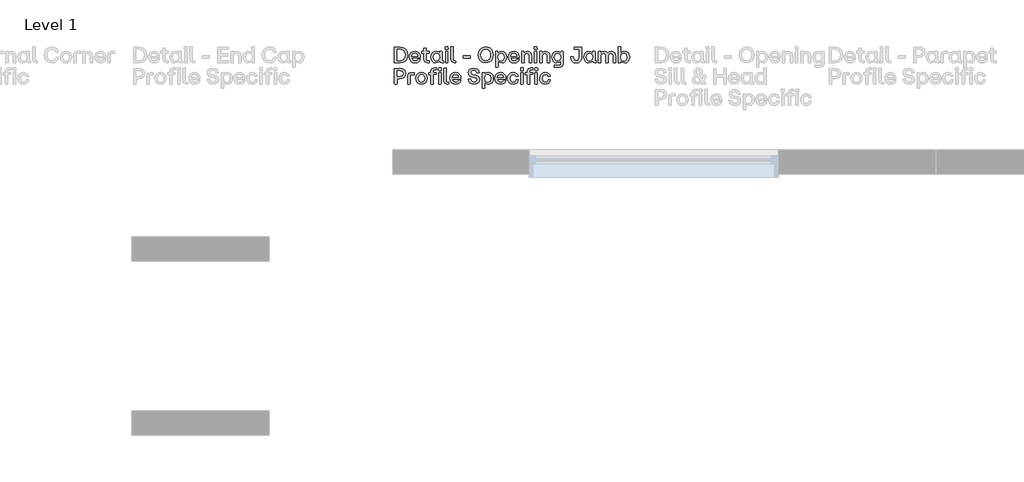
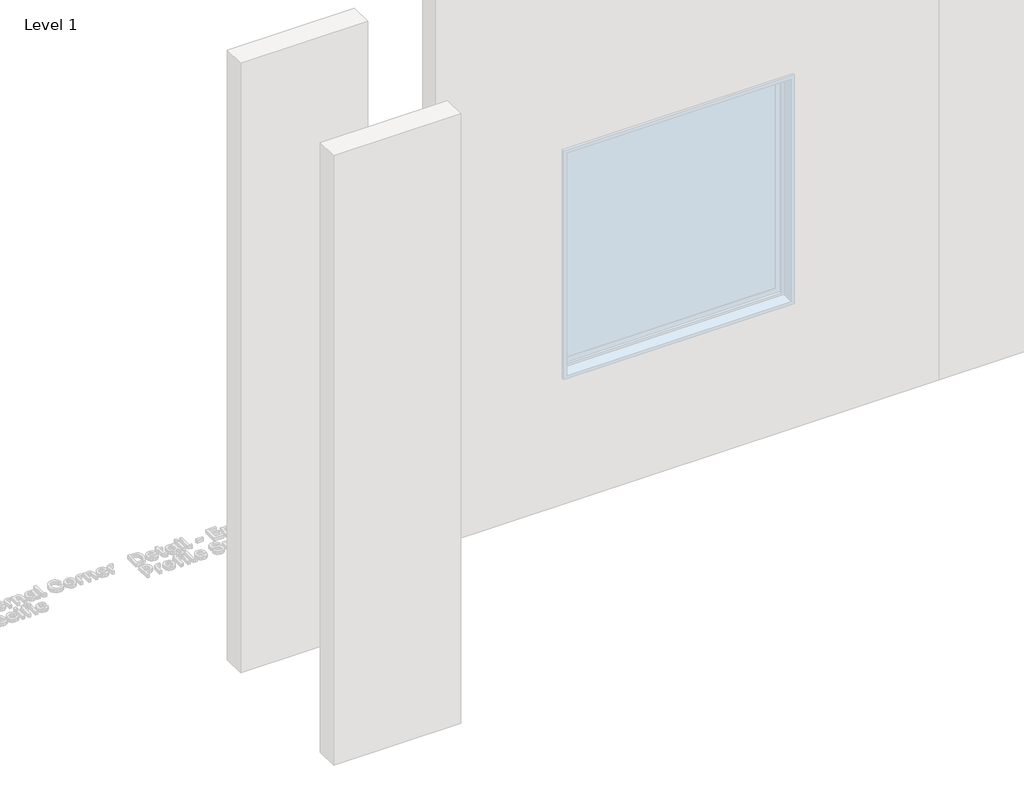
# One storey, part 43 of 64: 1 proxy.
"""IFC4 building model written with IfcOpenShell, lengths in millimetres."""

import ifcopenshell
import ifcopenshell.guid

model = None  # the IFC model being written
_history = None  # IfcOwnerHistory: only IFC2X3 demands one
_inside = {}  # id of a spatial element -> (the spatial element, [elements in it])
_under = {}  # id of a project, library or spatial element -> (it, [spatial elements below it])
_declared = {}  # id of a project -> (the project, [libraries it declares])
_typed = {}  # id of a type object -> (the type object, [elements of that type])
_made_of = {}  # id of a material, layer set ... -> (it, [elements and type objects made of it])


def new_model(schema):
    """Start an empty IFC model of exactly this schema.

    Asked for "IFC4X3", IfcOpenShell would pick the latest addendum, in which some entities
    have other attributes; the version numbers below select the first issue.
    IFC2X3 requires an IfcOwnerHistory on every rooted entity: one is made here for all.
    """
    global model, _history
    if schema == "IFC4X3":
        model = ifcopenshell.file(schema_version=(4, 3, 0, 0))
    else:
        model = ifcopenshell.file(schema=schema)
    _inside.clear()
    _under.clear()
    _declared.clear()
    _typed.clear()
    _made_of.clear()
    _history = None
    if model.schema == "IFC2X3":
        org = make("IfcOrganization", Name="unknown")
        user = make(
            "IfcPersonAndOrganization",
            ThePerson=make("IfcPerson", FamilyName="unknown"),
            TheOrganization=org,
        )
        app = make(
            "IfcApplication",
            ApplicationDeveloper=org,
            Version="unknown",
            ApplicationFullName="unknown",
            ApplicationIdentifier="unknown",
        )
        _history = make(
            "IfcOwnerHistory",
            OwningUser=user,
            OwningApplication=app,
            ChangeAction="ADDED",
            CreationDate=0,
        )
    return model


def make(cls, **values):
    """One entity of the class cls with the attributes given. An attribute that is None is left unset."""
    return model.create_entity(
        cls, **{name: value for name, value in values.items() if value is not None}
    )


def rooted(cls, **values):
    """An entity with a GlobalId (a new one), such as an element, a storey or a relation."""
    return make(cls, GlobalId=ifcopenshell.guid.new(), OwnerHistory=_history, **values)


def si_unit(unit_type, name, prefix=None):
    """IfcSIUnit, for example si_unit("LENGTHUNIT", "METRE", prefix="MILLI")."""
    return make("IfcSIUnit", UnitType=unit_type, Prefix=prefix, Name=name)


def assignment(units):
    """IfcUnitAssignment: the units of a project."""
    return None if units is None else make("IfcUnitAssignment", Units=units)


def point(xyz):
    """IfcCartesianPoint."""
    return None if xyz is None else make("IfcCartesianPoint", Coordinates=xyz)


def direction(xyz):
    """IfcDirection."""
    return None if xyz is None else make("IfcDirection", DirectionRatios=xyz)


def frame(location, z_axis=None, x_axis=None):
    """IfcAxis2Placement3D, a coordinate frame: its origin and axes. An axis left out is left unset."""
    return make(
        "IfcAxis2Placement3D",
        Location=point(location),
        Axis=direction(z_axis),
        RefDirection=direction(x_axis),
    )


def origin():
    """The frame at (0, 0, 0) with its axes left unset."""
    return frame((0.0, 0.0, 0.0))


def origin_with_axes():
    """The frame at (0, 0, 0) with the z axis (0, 0, 1) and the x axis (1, 0, 0) written out."""
    return frame((0.0, 0.0, 0.0), z_axis=(0.0, 0.0, 1.0), x_axis=(1.0, 0.0, 0.0))


def place(relative_to, where):
    """IfcLocalPlacement: puts the frame where relative to a parent placement (None: the world)."""
    return make(
        "IfcLocalPlacement", PlacementRelTo=relative_to, RelativePlacement=where
    )


def context(
    kind, dimensions, precision=None, world=None, true_north=None, identifier=None
):
    """IfcGeometricRepresentationContext, for example the 3D "Model" context."""
    return make(
        "IfcGeometricRepresentationContext",
        ContextIdentifier=identifier,
        ContextType=kind,
        CoordinateSpaceDimension=dimensions,
        Precision=precision,
        WorldCoordinateSystem=world,
        TrueNorth=true_north,
    )


def project(units=None, contexts=None):
    """IfcProject with its units and contexts."""
    return rooted(
        "IfcProject",
        Name="project",
        RepresentationContexts=contexts,
        UnitsInContext=assignment(units),
    )


def spatial(cls, under=None, at=None, **own):
    """A site, building, storey or space (cls), placed at a placement, below another one or the project."""
    s = rooted(cls, ObjectPlacement=at, **own)
    if under is not None:
        _under.setdefault(under.id(), (under, []))[1].append(s)
    return s


def polyline(points):
    """IfcPolyline through the points."""
    return make("IfcPolyline", Points=[point(p) for p in points])


def outline(outer, holes=None, kind="AREA"):
    """IfcArbitraryClosedProfileDef: a profile drawn as a closed curve; with holes, ...WithVoids."""
    if holes is None:
        return make("IfcArbitraryClosedProfileDef", ProfileType=kind, OuterCurve=outer)
    return make(
        "IfcArbitraryProfileDefWithVoids",
        ProfileType=kind,
        OuterCurve=outer,
        InnerCurves=holes,
    )


def extrude(swept, where, along, depth):
    """IfcExtrudedAreaSolid: the profile swept, set in the frame where, extruded along a direction by depth."""
    return make(
        "IfcExtrudedAreaSolid",
        SweptArea=swept,
        Position=where,
        ExtrudedDirection=direction(along),
        Depth=depth,
    )


def shape(context_of_items, identifier, shape_type, items):
    """IfcShapeRepresentation: the items that make up one representation, for example the "Body"."""
    return make(
        "IfcShapeRepresentation",
        ContextOfItems=context_of_items,
        RepresentationIdentifier=identifier,
        RepresentationType=shape_type,
        Items=items,
    )


def made_of(thing, what):
    """Note that an element or type object is made of a material, layer set ...; save() writes the relation."""
    if what is not None:
        _made_of.setdefault(what.id(), (what, []))[1].append(thing)
    return thing


def element(
    cls,
    number,
    at=None,
    inside=None,
    cuts=None,
    type_object=None,
    material=None,
    context=None,
    identifier="Body",
    shape_type=None,
    held_by="IfcProductDefinitionShape",
    body=None,
    shapes=None,
    **own,
):
    """One element of the class cls, such as IfcWall. Its Tag is "e" and its number.

    at: its placement. inside: the storey or other place that contains it. cuts: it is an
    opening in that element (IfcRelVoidsElement). A single representation is given by context,
    identifier, shape_type and body (its items); several are given by shapes. held_by: the class
    of the entity that holds the representations. save() writes the other relations.
    """
    e = rooted(cls, Tag="e%d" % number, ObjectPlacement=at, **own)
    if body is not None:
        shapes = [shape(context, identifier, shape_type, body)]
    if shapes is not None:
        e.Representation = make(held_by, Representations=shapes)
    if inside is not None:
        _inside.setdefault(inside.id(), (inside, []))[1].append(e)
    if cuts is not None:
        rooted(
            "IfcRelVoidsElement", RelatingBuildingElement=cuts, RelatedOpeningElement=e
        )
    if type_object is not None:
        _typed.setdefault(type_object.id(), (type_object, []))[1].append(e)
    return made_of(e, material)


def aggregate(whole, parts):
    """IfcRelAggregates: a whole, such as a stair, and the parts it consists of."""
    return rooted("IfcRelAggregates", RelatingObject=whole, RelatedObjects=parts)


def save(model, path):
    """Write the relations noted so far, then the file.

    IfcRelAggregates (storeys below a building ...), IfcRelContainedInSpatialStructure (elements
    in a storey), IfcRelDefinesByType, IfcRelAssociatesMaterial and IfcRelDeclares: one each for
    every whole, place, type object, material and project.
    """
    for whole, parts in _under.values():
        aggregate(whole, parts)
    for where, things in _inside.values():
        rooted(
            "IfcRelContainedInSpatialStructure",
            RelatedElements=things,
            RelatingStructure=where,
        )
    for kind, things in _typed.values():
        rooted("IfcRelDefinesByType", RelatedObjects=things, RelatingType=kind)
    for what, things in _made_of.values():
        rooted("IfcRelAssociatesMaterial", RelatedObjects=things, RelatingMaterial=what)
    for by, libraries in _declared.values():
        rooted("IfcRelDeclares", RelatingContext=by, RelatedDefinitions=libraries)
    model.write(path)


model = new_model("IFC4")

# Units and contexts
model_context = context("Model", 3, world=origin())
ifc_project = project(units=[si_unit("LENGTHUNIT", "METRE", prefix="MILLI")], contexts=[model_context])

# Site, building, storey
site = spatial("IfcSite", under=ifc_project)
building = spatial("IfcBuilding", under=site)
storey = spatial("IfcBuildingStorey", under=building, Name="Level 1", Elevation=0.0)

# Proxy
placement = place(None, origin())
element("IfcBuildingElementProxy", 1, Name="90mm", ObjectType="90mm", at=placement, inside=storey, context=model_context, shape_type="SweptSolid", body=[
    extrude(outline(polyline([(13610.2926176, -1500.0), (13608.9872124, -1498.7448027), (13608.9872124, -1411.3077612), (13642.5511873, -1410.002356), (13660.5475781, -1413.0054155), (13674.1193986, -1422.0145938), (13682.63905, -1436.3583606), (13685.4789338, -1455.3651852), (13682.648464, -1474.2025582), (13674.1570545, -1488.2890095), (13660.594648, -1497.0722524), (13642.5511873, -1500.0), (13610.2926176, -1500.0)]), holes=[polyline([(13623.7985402, -1487.3727155), (13641.6725492, -1487.3727155), (13653.8950326, -1485.311054), (13662.9481429, -1479.1260695), (13668.5494607, -1469.0625254), (13670.4165666, -1455.3651852), (13668.5431847, -1441.5109454), (13662.923039, -1431.1775339), (13653.8636527, -1424.7477859), (13641.6725492, -1422.6045366), (13623.7985402, -1422.6045366), (13623.7985402, -1487.3727155)])]), origin_with_axes(), (0.0, 0.0, 1.0), 20.0),
    extrude(outline(polyline([(13727.628458, -1500.7531184), (13714.0409476, -1498.4843493), (13703.5035666, -1491.6780421), (13696.7443293, -1481.0622112), (13694.4912502, -1467.3648711), (13696.7349153, -1453.5012173), (13703.4659107, -1442.7881086), (13713.9938777, -1435.9347315), (13727.628458, -1433.6502725), (13740.1584647, -1435.9033516), (13749.7324819, -1442.6625889), (13755.8044987, -1453.3129377), (13757.8285043, -1467.2393514), (13757.8285043, -1470.6785919), (13756.573307, -1472.009101), (13709.1268503, -1472.009101), (13714.6497183, -1484.6865934), (13727.628458, -1489.2053035), (13738.0465953, -1486.9082925), (13743.4439436, -1480.4691305), (13744.8246606, -1479.4147648), (13756.1967478, -1479.4147648), (13754.1633282, -1488.7314665), (13747.8120301, -1495.1925945), (13738.8248176, -1499.3629874), (13727.628458, -1500.7531184)]), holes=[polyline([(13709.2523701, -1461.5909637), (13743.8205028, -1461.5909637), (13739.0633051, -1449.6289337), (13727.628458, -1445.2733992), (13714.8631018, -1449.4155502), (13709.2523701, -1461.5909637)])]), origin_with_axes(), (0.0, 0.0, 1.0), 20.0),
    extrude(outline(polyline([(13796.6140998, -1500.0), (13782.731618, -1495.2302504), (13777.9618684, -1481.3477686), (13777.9618684, -1445.7754781), (13766.7906127, -1445.7754781), (13765.4852076, -1435.7339), (13766.7906127, -1434.4787027), (13777.9618684, -1434.4787027), (13777.9618684, -1416.45407), (13779.2170657, -1415.1486648), (13790.9657121, -1415.1486648), (13792.2209094, -1416.45407), (13792.2209094, -1434.4787027), (13808.0363949, -1434.4787027), (13809.3418001, -1435.7339), (13809.3418001, -1444.444969), (13792.2209094, -1445.7754781), (13792.2209094, -1488.7032246), (13808.0363949, -1488.7032246), (13809.3418001, -1489.9584219), (13809.3418001, -1498.7448027), (13808.0363949, -1500.0), (13796.6140998, -1500.0)])), origin_with_axes(), (0.0, 0.0, 1.0), 20.0),
    extrude(outline(polyline([(13847.2738615, -1500.7531184), (13835.3243835, -1498.4843493), (13826.0861316, -1491.6780421), (13820.1741525, -1481.0622112), (13818.2034928, -1467.3648711), (13820.1741525, -1453.5325972), (13826.0861316, -1442.8132125), (13835.3243835, -1435.9410075), (13847.2738615, -1433.6502725), (13859.1856835, -1436.5372262), (13868.160344, -1444.444969), (13868.7377347, -1435.7339), (13869.992932, -1434.4787027), (13881.6662665, -1434.4787027), (13882.9716717, -1435.7339), (13882.9716717, -1488.7032246), (13890.0760882, -1488.7032246), (13891.3312855, -1489.9584219), (13891.3312855, -1498.7448027), (13890.0760882, -1500.0), (13880.536589, -1500.0), (13872.1581473, -1497.6465051), (13869.3653333, -1490.5860205), (13859.7254183, -1497.8661646), (13847.2738615, -1500.7531184)]), holes=[polyline([(13832.7135732, -1467.3648711), (13837.6716024, -1483.3686362), (13843.5365116, -1487.7461367), (13851.2151809, -1489.2053035), (13858.7714684, -1487.7524127), (13864.470064, -1483.3937402), (13869.2398136, -1467.3648711), (13864.4324081, -1451.1728263), (13858.7243985, -1446.748256), (13851.2151809, -1445.2733992), (13843.5365116, -1446.748256), (13837.6716024, -1451.1728263), (13832.7135732, -1467.3648711)])]), origin_with_axes(), (0.0, 0.0, 1.0), 20.0),
    extrude(outline(polyline([(13903.6824266, -1500.0), (13902.3770214, -1498.7448027), (13902.3770214, -1435.7339), (13903.6824266, -1434.4787027), (13915.3557612, -1434.4787027), (13916.6109584, -1435.7339), (13916.6109584, -1498.7448027), (13915.3557612, -1500.0), (13903.6824266, -1500.0)])), origin_with_axes(), (0.0, 0.0, 1.0), 20.0),
    extrude(outline(polyline([(13901.3728636, -1421.8514182), (13901.3728636, -1407.9940404), (13902.6280609, -1406.6635313), (13916.4854387, -1406.6635313), (13917.8159478, -1421.8514182), (13916.4854387, -1423.1066155), (13902.6280609, -1423.1066155), (13901.3728636, -1421.8514182)])), origin_with_axes(), (0.0, 0.0, 1.0), 20.0),
    extrude(outline(polyline([(13951.5305464, -1500.0), (13937.6731686, -1495.2302504), (13932.903419, -1481.3477686), (13932.903419, -1408.7471587), (13945.8821587, -1407.4166496), (13947.137356, -1408.7471587), (13947.137356, -1488.7032246), (13959.1370418, -1488.7032246), (13960.3922391, -1489.9584219), (13960.3922391, -1498.7448027), (13959.1370418, -1500.0), (13951.5305464, -1500.0)])), origin_with_axes(), (0.0, 0.0, 1.0), 20.0),
    extrude(outline(polyline([(14005.1776775, -1472.887739), (14003.9224803, -1471.5572299), (14003.9224803, -1461.5909637), (14005.1776775, -1460.2604546), (14043.7875455, -1460.2604546), (14045.0427427, -1461.5909637), (14045.0427427, -1471.5572299), (14043.7875455, -1472.887739), (14005.1776775, -1472.887739)])), origin_with_axes(), (0.0, 0.0, 1.0), 20.0),
    extrude(outline(polyline([(14133.1575908, -1500.7531184), (14115.6946589, -1497.6465051), (14102.0663545, -1488.3266654), (14093.2831117, -1473.8730689), (14090.355364, -1455.3651852), (14093.2893876, -1436.62509), (14102.0914585, -1421.92673), (14115.7260388, -1412.4186107), (14133.1575908, -1409.2492376), (14155.6883817, -1414.9603852), (14164.302173, -1421.8639702), (14170.6879891, -1431.1524299), (14175.9598176, -1455.3651852), (14170.6879891, -1479.1637254), (14164.302173, -1488.2952855), (14155.6883817, -1495.1047307), (14133.1575908, -1500.7531184)]), holes=[polyline([(14105.4177312, -1455.3651852), (14107.2848372, -1468.9307297), (14112.886155, -1479.352005), (14121.6882258, -1485.9888605), (14133.1575908, -1488.2011457), (14144.6740257, -1485.9951365), (14153.4666826, -1479.3771089), (14159.0397584, -1468.9621096), (14160.8974504, -1455.3651852), (14159.0303445, -1441.4952554), (14153.4290267, -1430.8637346), (14144.6269558, -1424.1044973), (14133.1575908, -1421.8514182), (14121.6882258, -1424.1044973), (14112.886155, -1430.8637346), (14107.2848372, -1441.4952554), (14105.4177312, -1455.3651852)])]), origin_with_axes(), (0.0, 0.0, 1.0), 20.0),
    extrude(outline(polyline([(14191.2732242, -1524.4010349), (14189.9678191, -1523.1458376), (14189.9678191, -1435.7339), (14191.2732242, -1434.4787027), (14202.3189602, -1434.4787027), (14203.5741575, -1435.7339), (14203.5741575, -1444.3194493), (14213.2140725, -1436.5372262), (14225.6656293, -1433.6502725), (14237.6151073, -1435.9253176), (14246.8533592, -1442.7504527), (14252.7653383, -1453.3913875), (14254.735998, -1467.1138316), (14252.7653383, -1480.9210016), (14246.8533592, -1491.6152823), (14237.6151073, -1498.4686593), (14225.6656293, -1500.7531184), (14213.7538073, -1497.8661646), (14204.7791468, -1489.9584219), (14204.2017561, -1523.1458376), (14202.9465588, -1524.4010349), (14191.2732242, -1524.4010349)]), holes=[polyline([(14203.6996772, -1467.1138316), (14208.5070827, -1483.3058764), (14214.2150923, -1487.7304467), (14221.7243099, -1489.2053035), (14229.4029792, -1487.7304467), (14235.2678884, -1483.3058764), (14240.2259176, -1467.1138316), (14235.2678884, -1451.1100665), (14229.4029792, -1446.732566), (14221.7243099, -1445.2733992), (14214.1680224, -1446.723152), (14208.4694268, -1451.0724106), (14203.6996772, -1467.1138316)])]), origin_with_axes(), (0.0, 0.0, 1.0), 20.0),
    extrude(outline(polyline([(14296.3834433, -1500.7531184), (14282.7959329, -1498.4843493), (14272.2585519, -1491.6780421), (14265.4993146, -1481.0622112), (14263.2462355, -1467.3648711), (14265.4899006, -1453.5012173), (14272.2208959, -1442.7881086), (14282.748863, -1435.9347315), (14296.3834433, -1433.6502725), (14308.91345, -1435.9033516), (14318.4874672, -1442.6625889), (14324.559484, -1453.3129377), (14326.5834895, -1467.2393514), (14326.5834895, -1470.6785919), (14325.3282923, -1472.009101), (14277.8818356, -1472.009101), (14283.4047036, -1484.6865934), (14296.3834433, -1489.2053035), (14306.8015806, -1486.9082925), (14312.1989289, -1480.4691305), (14313.5796459, -1479.4147648), (14324.9517331, -1479.4147648), (14322.9183135, -1488.7314665), (14316.5670154, -1495.1925945), (14307.5798029, -1499.3629874), (14296.3834433, -1500.7531184)]), holes=[polyline([(14278.0073553, -1461.5909637), (14312.5754881, -1461.5909637), (14307.8182904, -1449.6289337), (14296.3834433, -1445.2733992), (14283.6180871, -1449.4155502), (14278.0073553, -1461.5909637)])]), origin_with_axes(), (0.0, 0.0, 1.0), 20.0),
    extrude(outline(polyline([(14340.6919068, -1500.0), (14339.3865017, -1498.7448027), (14339.3865017, -1435.7339), (14340.6919068, -1434.4787027), (14351.7376428, -1434.4787027), (14352.99284, -1435.7339), (14352.99284, -1444.444969), (14362.2875758, -1436.3489466), (14374.2056738, -1433.6502725), (14384.1311462, -1435.5330684), (14391.4144284, -1441.1814561), (14395.8860686, -1450.4573639), (14397.3766154, -1463.2227201), (14397.3766154, -1498.7448027), (14396.0461063, -1500.0), (14384.3727717, -1500.0), (14383.0673665, -1498.7448027), (14383.0673665, -1463.2227201), (14379.5528142, -1449.942733), (14368.4443184, -1445.7754781), (14357.2354068, -1450.0054929), (14353.6204387, -1463.2227201), (14353.6204387, -1498.7448027), (14352.3652414, -1500.0), (14340.6919068, -1500.0)])), origin_with_axes(), (0.0, 0.0, 1.0), 20.0),
    extrude(outline(polyline([(14414.5979219, -1500.0), (14413.2925167, -1498.7448027), (14413.2925167, -1435.7339), (14414.5979219, -1434.4787027), (14426.2712564, -1434.4787027), (14427.5264537, -1435.7339), (14427.5264537, -1498.7448027), (14426.2712564, -1500.0), (14414.5979219, -1500.0)])), origin_with_axes(), (0.0, 0.0, 1.0), 20.0),
    extrude(outline(polyline([(14412.2883589, -1421.8514182), (14412.2883589, -1407.9940404), (14413.5435562, -1406.6635313), (14427.400934, -1406.6635313), (14428.7314431, -1421.8514182), (14427.400934, -1423.1066155), (14413.5435562, -1423.1066155), (14412.2883589, -1421.8514182)])), origin_with_axes(), (0.0, 0.0, 1.0), 20.0),
    extrude(outline(polyline([(14445.1243194, -1500.0), (14443.8189142, -1498.7448027), (14443.8189142, -1435.7339), (14445.1243194, -1434.4787027), (14456.1700553, -1434.4787027), (14457.4252526, -1435.7339), (14457.4252526, -1444.444969), (14466.7199883, -1436.3489466), (14478.6380864, -1433.6502725), (14488.5635588, -1435.5330684), (14495.8468409, -1441.1814561), (14500.3184812, -1450.4573639), (14501.8090279, -1463.2227201), (14501.8090279, -1498.7448027), (14500.4785188, -1500.0), (14488.8051842, -1500.0), (14487.4997791, -1498.7448027), (14487.4997791, -1463.2227201), (14483.9852267, -1449.942733), (14472.8767309, -1445.7754781), (14461.6678193, -1450.0054929), (14458.0528512, -1463.2227201), (14458.0528512, -1498.7448027), (14456.797654, -1500.0), (14445.1243194, -1500.0)])), origin_with_axes(), (0.0, 0.0, 1.0), 20.0),
    extrude(outline(polyline([(14527.5154679, -1524.4010349), (14526.1849588, -1523.1458376), (14526.1849588, -1514.3594567), (14527.5154679, -1513.1042595), (14564.4182676, -1513.1042595), (14564.4182676, -1489.9584219), (14554.8662164, -1497.8661646), (14542.9543943, -1500.7531184), (14531.0049163, -1498.4686593), (14521.7666645, -1491.6152823), (14515.8546853, -1480.9210016), (14513.8840256, -1467.1138316), (14515.8546853, -1453.3913875), (14521.7666645, -1442.7504527), (14531.0049163, -1435.9253176), (14542.9543943, -1433.6502725), (14555.4059512, -1436.5372262), (14564.5437873, -1444.3194493), (14565.0458662, -1435.7339), (14566.3010635, -1434.4787027), (14577.3467994, -1434.4787027), (14578.6522046, -1435.7339), (14578.6522046, -1506.4015061), (14574.0079747, -1519.7944609), (14560.6526758, -1524.4010349), (14527.5154679, -1524.4010349)]), holes=[polyline([(14528.394106, -1467.1138316), (14533.3521352, -1483.3058764), (14539.2170444, -1487.7304467), (14546.8957137, -1489.2053035), (14554.4049314, -1487.7304467), (14560.1129409, -1483.3058764), (14564.9203465, -1467.1138316), (14560.1505969, -1451.0724106), (14554.4520013, -1446.723152), (14546.8957137, -1445.2733992), (14539.2170444, -1446.732566), (14533.3521352, -1451.1100665), (14528.394106, -1467.1138316)])]), origin_with_axes(), (0.0, 0.0, 1.0), 20.0),
    extrude(outline(polyline([(14677.4111255, -1492.3432967), (14667.517033, -1498.6506629), (14653.8008649, -1500.7531184), (14640.0784208, -1498.6569389), (14630.1655004, -1492.3684006), (14624.1593814, -1481.9879192), (14622.1573418, -1467.6159105), (14623.4125391, -1466.1598817), (14635.6632644, -1466.1598817), (14636.9184617, -1467.4903908), (14641.0229567, -1483.2054606), (14653.7883129, -1488.2011457), (14661.3038066, -1486.9459484), (14666.5285652, -1483.1803566), (14670.6079563, -1467.3648711), (14670.6079563, -1422.6045366), (14643.3701756, -1422.6045366), (14642.0647705, -1421.3493393), (14642.0647705, -1411.3077612), (14684.1138789, -1410.002356), (14685.419284, -1467.3648711), (14683.4172444, -1481.8937794), (14677.4111255, -1492.3432967)])), origin_with_axes(), (0.0, 0.0, 1.0), 20.0),
    extrude(outline(polyline([(14726.1127794, -1500.7531184), (14714.1633014, -1498.4843493), (14704.9250495, -1491.6780421), (14699.0130704, -1481.0622112), (14697.0424107, -1467.3648711), (14699.0130704, -1453.5325972), (14704.9250495, -1442.8132125), (14714.1633014, -1435.9410075), (14726.1127794, -1433.6502725), (14738.0246015, -1436.5372262), (14746.9992619, -1444.444969), (14747.5766527, -1435.7339), (14748.8318499, -1434.4787027), (14760.5051845, -1434.4787027), (14761.8105897, -1435.7339), (14761.8105897, -1488.7032246), (14768.9150062, -1488.7032246), (14770.1702034, -1489.9584219), (14770.1702034, -1498.7448027), (14768.9150062, -1500.0), (14759.375507, -1500.0), (14750.9970652, -1497.6465051), (14748.2042513, -1490.5860205), (14738.5643363, -1497.8661646), (14726.1127794, -1500.7531184)]), holes=[polyline([(14711.5524911, -1467.3648711), (14716.5105203, -1483.3686362), (14722.3754295, -1487.7461367), (14730.0540988, -1489.2053035), (14737.6103864, -1487.7524127), (14743.3089819, -1483.3937402), (14748.0787316, -1467.3648711), (14743.271326, -1451.1728263), (14737.5633165, -1446.748256), (14730.0540988, -1445.2733992), (14722.3754295, -1446.748256), (14716.5105203, -1451.1728263), (14711.5524911, -1467.3648711)])]), origin_with_axes(), (0.0, 0.0, 1.0), 20.0),
    extrude(outline(polyline([(14782.5213445, -1500.0), (14781.2159394, -1498.7448027), (14781.2159394, -1435.7339), (14782.5213445, -1434.4787027), (14793.5670805, -1434.4787027), (14794.8222778, -1435.7339), (14794.8222778, -1444.444969), (14803.7969382, -1436.3489466), (14815.4075129, -1433.6502725), (14826.7231163, -1436.3489466), (14834.3107838, -1444.444969), (14844.7916809, -1436.4493624), (14857.8331805, -1433.6502725), (14867.4668195, -1435.5267924), (14874.5273042, -1441.1563522), (14878.8577347, -1450.425984), (14880.3012116, -1463.2227201), (14880.3012116, -1498.7448027), (14879.0460143, -1500.0), (14867.3224719, -1500.0), (14866.0672746, -1498.7448027), (14866.0672746, -1463.2227201), (14862.678242, -1449.942733), (14851.9337534, -1445.7754781), (14841.3022325, -1450.0054929), (14837.875544, -1463.2227201), (14837.875544, -1498.7448027), (14836.6203467, -1500.0), (14824.8968043, -1500.0), (14823.641607, -1498.7448027), (14823.641607, -1463.2227201), (14820.2776783, -1449.942733), (14809.6336055, -1445.7754781), (14798.8765649, -1450.0054929), (14795.4498764, -1463.2227201), (14795.4498764, -1498.7448027), (14794.1946791, -1500.0), (14782.5213445, -1500.0)])), origin_with_axes(), (0.0, 0.0, 1.0), 20.0),
    extrude(outline(polyline([(14930.9860772, -1500.7531184), (14918.5345203, -1497.8661646), (14909.3966842, -1490.0839416), (14908.8946053, -1498.7448027), (14907.639408, -1500.0), (14896.5936721, -1500.0), (14895.2882669, -1498.7448027), (14895.2882669, -1408.7471587), (14908.2670067, -1407.4166496), (14909.5222039, -1408.7471587), (14909.5222039, -1444.444969), (14919.0742551, -1436.5372262), (14930.9860772, -1433.6502725), (14942.9355552, -1435.9410075), (14952.1738071, -1442.8132125), (14958.0857862, -1453.5325972), (14960.0564459, -1467.3648711), (14958.0857862, -1481.0622112), (14952.1738071, -1491.6780421), (14942.9355552, -1498.4843493), (14930.9860772, -1500.7531184)]), holes=[polyline([(14909.020125, -1467.3648711), (14913.7898747, -1483.3937402), (14919.4884702, -1487.7524127), (14927.0447578, -1489.2053035), (14934.7234271, -1487.7461367), (14940.5883363, -1483.3686362), (14945.5463655, -1467.3648711), (14940.5883363, -1451.1728263), (14934.7234271, -1446.748256), (14927.0447578, -1445.2733992), (14919.5355401, -1446.748256), (14913.8275306, -1451.1728263), (14909.020125, -1467.3648711)])]), origin_with_axes(), (0.0, 0.0, 1.0), 20.0),
    extrude(outline(polyline([(13610.2926176, -1622.13305), (13608.9872124, -1620.8778528), (13608.9872124, -1533.4408112), (13640.1161046, -1532.135406), (13654.0174144, -1534.0338919), (13664.3414119, -1539.7293495), (13670.7429179, -1548.9236695), (13672.8767533, -1561.3187425), (13670.7429179, -1573.7138155), (13664.3414119, -1582.9081354), (13654.0174144, -1588.603593), (13640.1161046, -1590.5020789), (13623.7985402, -1590.5020789), (13623.7985402, -1620.8778528), (13622.4680311, -1622.13305), (13610.2926176, -1622.13305)]), holes=[polyline([(13623.7985402, -1577.8747944), (13640.1161046, -1577.8747944), (13653.5969233, -1573.7954033), (13657.9901137, -1561.3061905), (13653.5969233, -1548.8169777), (13640.1161046, -1544.7375866), (13623.7985402, -1544.7375866), (13623.7985402, -1577.8747944)])]), origin_with_axes(), (0.0, 0.0, 1.0), 20.0),
    extrude(outline(polyline([(13686.1065325, -1622.13305), (13684.8513352, -1620.8778528), (13684.8513352, -1575.1886723), (13689.6210848, -1561.3438464), (13703.4784626, -1556.6117527), (13721.7541348, -1556.6117527), (13723.0093321, -1557.86695), (13723.0093321, -1567.4064492), (13721.7541348, -1568.6616465), (13699.0852722, -1568.6616465), (13699.0852722, -1620.8778528), (13697.8300749, -1622.13305), (13686.1065325, -1622.13305)])), origin_with_axes(), (0.0, 0.0, 1.0), 20.0),
    extrude(outline(polyline([(13764.2049064, -1622.8861684), (13750.9782652, -1620.5797434), (13740.519334, -1613.6604685), (13733.7130268, -1603.0069817), (13731.4442577, -1589.4979211), (13733.7193028, -1575.9009967), (13740.5444379, -1565.1345422), (13751.0096451, -1558.1211274), (13764.2049064, -1555.7833225), (13777.5570673, -1558.1211274), (13788.0913103, -1565.1345422), (13794.9352734, -1575.9009967), (13797.2165945, -1589.4979211), (13794.9352734, -1603.0069817), (13788.0913103, -1613.6604685), (13777.5570673, -1620.5797434), (13764.2049064, -1622.8861684)]), holes=[polyline([(13745.9543381, -1589.4979211), (13750.8119515, -1605.5267902), (13756.588997, -1609.8854627), (13764.2049064, -1611.3383535), (13771.9024036, -1609.8791867), (13777.7735888, -1605.5016862), (13782.731618, -1589.4979211), (13777.7986928, -1573.3058764), (13771.9337835, -1568.881306), (13764.2049064, -1567.4064492), (13756.588997, -1568.881306), (13750.8119515, -1573.3058764), (13745.9543381, -1589.4979211)])]), origin_with_axes(), (0.0, 0.0, 1.0), 20.0),
    extrude(outline(polyline([(13819.3833782, -1622.13305), (13818.1281809, -1620.8778528), (13818.1281809, -1567.9085281), (13806.9569253, -1567.9085281), (13805.6515201, -1557.86695), (13806.9569253, -1556.6117527), (13818.1281809, -1556.6117527), (13818.1281809, -1548.201931), (13822.8979305, -1534.3194493), (13836.7804123, -1529.5496997), (13848.2027074, -1529.5496997), (13849.5081126, -1539.5912778), (13832.3872219, -1540.9217869), (13832.3872219, -1556.6117527), (13848.2027074, -1556.6117527), (13849.5081126, -1557.86695), (13849.5081126, -1566.578019), (13832.3872219, -1567.9085281), (13832.3872219, -1620.8778528), (13831.1320246, -1622.13305), (13819.3833782, -1622.13305)])), origin_with_axes(), (0.0, 0.0, 1.0), 20.0),
    extrude(outline(polyline([(13861.3069669, -1543.9844682), (13861.3069669, -1530.1270904), (13862.5621642, -1528.7965813), (13876.4948538, -1528.7965813), (13877.7500511, -1530.1270904), (13877.7500511, -1543.9844682), (13876.4948538, -1545.2396655), (13862.5621642, -1545.2396655), (13861.3069669, -1543.9844682)])), origin_with_axes(), (0.0, 0.0, 1.0), 20.0),
    extrude(outline(polyline([(13862.3111247, -1620.8778528), (13862.3111247, -1557.86695), (13863.6416338, -1556.6117527), (13875.3149684, -1556.6117527), (13876.6203735, -1557.86695), (13876.6203735, -1620.8778528), (13875.3149684, -1622.13305), (13863.6416338, -1622.13305), (13862.3111247, -1620.8778528)])), origin_with_axes(), (0.0, 0.0, 1.0), 20.0),
    extrude(outline(polyline([(13911.3642339, -1622.13305), (13897.506856, -1617.3633004), (13892.7371064, -1603.4808186), (13892.7371064, -1530.8802088), (13905.7158462, -1529.5496997), (13906.9710434, -1530.8802088), (13906.9710434, -1610.8362746), (13918.9707293, -1610.8362746), (13920.2259266, -1612.0914719), (13920.2259266, -1620.8778528), (13918.9707293, -1622.13305), (13911.3642339, -1622.13305)])), origin_with_axes(), (0.0, 0.0, 1.0), 20.0),
    extrude(outline(polyline([(13960.5930707, -1622.8861684), (13947.0055602, -1620.6173993), (13936.4681792, -1613.8110921), (13929.7089419, -1603.1952613), (13927.4558628, -1589.4979211), (13929.6995279, -1575.6342673), (13936.4305233, -1564.9211586), (13946.9584903, -1558.0677815), (13960.5930707, -1555.7833225), (13973.1230774, -1558.0364016), (13982.6970945, -1564.7956389), (13988.7691113, -1575.4459877), (13990.7931169, -1589.3724014), (13990.7931169, -1592.8116419), (13989.5379196, -1594.142151), (13942.0914629, -1594.142151), (13947.6143309, -1606.8196434), (13960.5930707, -1611.3383535), (13971.011208, -1609.0413425), (13976.4085562, -1602.6021806), (13977.7892732, -1601.5478148), (13989.1613604, -1601.5478148), (13987.1279409, -1610.8645166), (13980.7766427, -1617.3256445), (13971.7894303, -1621.4960374), (13960.5930707, -1622.8861684)]), holes=[polyline([(13942.2169827, -1583.7240137), (13976.7851154, -1583.7240137), (13972.0279177, -1571.7619837), (13960.5930707, -1567.4064492), (13947.8277145, -1571.5486002), (13942.2169827, -1583.7240137)])]), origin_with_axes(), (0.0, 0.0, 1.0), 20.0),
    extrude(outline(polyline([(14066.8831752, -1622.8861684), (14053.1136611, -1621.0347524), (14042.4319324, -1615.4805045), (14035.1706162, -1606.5058441), (14031.6623399, -1594.3931904), (14044.917223, -1592.9371616), (14046.2226282, -1594.142151), (14052.4107507, -1606.6941236), (14066.8831752, -1610.5852352), (14079.3974919, -1607.007923), (14083.8785461, -1597.0793126), (14080.7782089, -1588.8326665), (14070.3977275, -1584.7281715), (14058.5235614, -1582.644544), (14047.5186193, -1579.3904451), (14039.6579465, -1574.0715467), (14034.9415427, -1566.6878488), (14033.3694082, -1557.2393514), (14035.3839998, -1546.397585), (14041.4277746, -1538.2231128), (14051.0802416, -1533.0924939), (14063.9209096, -1531.3822877), (14076.6548859, -1533.1144599), (14086.5897722, -1538.3109766), (14093.3803895, -1546.6643144), (14096.6815583, -1557.86695), (14083.501987, -1559.2978749), (14082.0710621, -1557.86695), (14076.2594987, -1547.1601173), (14063.9209096, -1543.7334288), (14052.1597112, -1546.8714219), (14048.1054241, -1556.034362), (14051.7203922, -1564.732879), (14063.0422715, -1569.2892451), (14074.8411258, -1571.3477686), (14085.6609263, -1574.5171417), (14093.0163822, -1579.6069666), (14097.2338451, -1586.9373187), (14098.639666, -1596.8282731), (14096.5277966, -1607.7422134), (14090.1921884, -1615.9825834), (14080.1411963, -1621.1602721), (14066.8831752, -1622.8861684)])), origin_with_axes(), (0.0, 0.0, 1.0), 20.0),
    extrude(outline(polyline([(14114.1539042, -1646.5340849), (14112.848499, -1645.2788876), (14112.848499, -1557.86695), (14114.1539042, -1556.6117527), (14125.1996401, -1556.6117527), (14126.4548374, -1557.86695), (14126.4548374, -1566.4524993), (14136.0947524, -1558.6702762), (14148.5463093, -1555.7833225), (14160.4957873, -1558.0583676), (14169.7340392, -1564.8835027), (14175.6460183, -1575.5244375), (14177.616678, -1589.2468816), (14175.6460183, -1603.0540516), (14169.7340392, -1613.7483323), (14160.4957873, -1620.6017094), (14148.5463093, -1622.8861684), (14136.6344872, -1619.9992147), (14127.6598268, -1612.0914719), (14127.082436, -1645.2788876), (14125.8272388, -1646.5340849), (14114.1539042, -1646.5340849)]), holes=[polyline([(14126.5803571, -1589.2468816), (14131.3877627, -1605.4389264), (14137.0957722, -1609.8634967), (14144.6049899, -1611.3383535), (14152.2836592, -1609.8634967), (14158.1485684, -1605.4389264), (14163.1065976, -1589.2468816), (14158.1485684, -1573.2431165), (14152.2836592, -1568.865616), (14144.6049899, -1567.4064492), (14137.0487023, -1568.856202), (14131.3501068, -1573.2054606), (14126.5803571, -1589.2468816)])]), origin_with_axes(), (0.0, 0.0, 1.0), 20.0),
    extrude(outline(polyline([(14219.2641233, -1622.8861684), (14205.6766129, -1620.6173993), (14195.1392318, -1613.8110921), (14188.3799945, -1603.1952613), (14186.1269155, -1589.4979211), (14188.3705806, -1575.6342673), (14195.1015759, -1564.9211586), (14205.629543, -1558.0677815), (14219.2641233, -1555.7833225), (14231.79413, -1558.0364016), (14241.3681471, -1564.7956389), (14247.4401639, -1575.4459877), (14249.4641695, -1589.3724014), (14249.4641695, -1592.8116419), (14248.2089722, -1594.142151), (14200.7625156, -1594.142151), (14206.2853836, -1606.8196434), (14219.2641233, -1611.3383535), (14229.6822606, -1609.0413425), (14235.0796088, -1602.6021806), (14236.4603258, -1601.5478148), (14247.8324131, -1601.5478148), (14245.7989935, -1610.8645166), (14239.4476953, -1617.3256445), (14230.4604829, -1621.4960374), (14219.2641233, -1622.8861684)]), holes=[polyline([(14200.8880353, -1583.7240137), (14235.456168, -1583.7240137), (14230.6989704, -1571.7619837), (14219.2641233, -1567.4064492), (14206.4987671, -1571.5486002), (14200.8880353, -1583.7240137)])]), origin_with_axes(), (0.0, 0.0, 1.0), 20.0),
    extrude(outline(polyline([(14291.4379661, -1622.8861684), (14277.9445955, -1620.6173993), (14267.4385944, -1613.8110921), (14260.6793571, -1603.1952613), (14258.426278, -1589.4979211), (14260.710737, -1575.9009967), (14267.5641141, -1565.1345422), (14278.1014951, -1558.1211274), (14291.4379661, -1555.7833225), (14302.4209422, -1557.3303532), (14311.3704987, -1561.971445), (14317.6841409, -1569.1543114), (14320.7593742, -1578.3266654), (14308.1320897, -1579.7073824), (14301.7054797, -1570.1678832), (14291.4379661, -1567.4064492), (14283.680847, -1568.881306), (14277.8316277, -1573.3058764), (14272.9363584, -1589.4979211), (14277.8567317, -1605.5644461), (14283.7122269, -1609.8948767), (14291.4379661, -1611.3383535), (14302.019279, -1608.7024393), (14307.3789714, -1600.1670979), (14308.7596884, -1598.9621085), (14320.1317756, -1598.9621085), (14318.12346, -1609.4712476), (14311.7470579, -1616.6980459), (14302.7033616, -1621.3391377), (14291.4379661, -1622.8861684)])), origin_with_axes(), (0.0, 0.0, 1.0), 20.0),
    extrude(outline(polyline([(14335.8719493, -1622.13305), (14334.5665442, -1620.8778528), (14334.5665442, -1557.86695), (14335.8719493, -1556.6117527), (14347.5452839, -1556.6117527), (14348.8004812, -1557.86695), (14348.8004812, -1620.8778528), (14347.5452839, -1622.13305), (14335.8719493, -1622.13305)])), origin_with_axes(), (0.0, 0.0, 1.0), 20.0),
    extrude(outline(polyline([(14333.5623863, -1543.9844682), (14333.5623863, -1530.1270904), (14334.8175836, -1528.7965813), (14348.6749614, -1528.7965813), (14350.0054705, -1543.9844682), (14348.6749614, -1545.2396655), (14334.8175836, -1545.2396655), (14333.5623863, -1543.9844682)])), origin_with_axes(), (0.0, 0.0, 1.0), 20.0),
    extrude(outline(polyline([(14373.678491, -1622.13305), (14372.4232937, -1620.8778528), (14372.4232937, -1567.9085281), (14361.252038, -1567.9085281), (14359.9466329, -1557.86695), (14361.252038, -1556.6117527), (14372.4232937, -1556.6117527), (14372.4232937, -1548.201931), (14377.1930433, -1534.3194493), (14391.0755251, -1529.5496997), (14402.4978202, -1529.5496997), (14403.8032254, -1539.5912778), (14386.6823347, -1540.9217869), (14386.6823347, -1556.6117527), (14402.4978202, -1556.6117527), (14403.8032254, -1557.86695), (14403.8032254, -1566.578019), (14386.6823347, -1567.9085281), (14386.6823347, -1620.8778528), (14385.4271374, -1622.13305), (14373.678491, -1622.13305)])), origin_with_axes(), (0.0, 0.0, 1.0), 20.0),
    extrude(outline(polyline([(14415.6020797, -1543.9844682), (14415.6020797, -1530.1270904), (14416.8572769, -1528.7965813), (14430.7899666, -1528.7965813), (14432.0451639, -1530.1270904), (14432.0451639, -1543.9844682), (14430.7899666, -1545.2396655), (14416.8572769, -1545.2396655), (14415.6020797, -1543.9844682)])), origin_with_axes(), (0.0, 0.0, 1.0), 20.0),
    extrude(outline(polyline([(14416.6062375, -1620.8778528), (14416.6062375, -1557.86695), (14417.9367466, -1556.6117527), (14429.6100812, -1556.6117527), (14430.9154863, -1557.86695), (14430.9154863, -1620.8778528), (14429.6100812, -1622.13305), (14417.9367466, -1622.13305), (14416.6062375, -1620.8778528)])), origin_with_axes(), (0.0, 0.0, 1.0), 20.0),
    extrude(outline(polyline([(14476.2030037, -1622.8861684), (14462.7096331, -1620.6173993), (14452.203632, -1613.8110921), (14445.4443947, -1603.1952613), (14443.1913156, -1589.4979211), (14445.4757746, -1575.9009967), (14452.3291517, -1565.1345422), (14462.8665327, -1558.1211274), (14476.2030037, -1555.7833225), (14487.1859798, -1557.3303532), (14496.1355363, -1561.971445), (14502.4491785, -1569.1543114), (14505.5244118, -1578.3266654), (14492.8971273, -1579.7073824), (14486.4705173, -1570.1678832), (14476.2030037, -1567.4064492), (14468.4458846, -1568.881306), (14462.5966653, -1573.3058764), (14457.701396, -1589.4979211), (14462.6217693, -1605.5644461), (14468.4772645, -1609.8948767), (14476.2030037, -1611.3383535), (14486.7843166, -1608.7024393), (14492.144009, -1600.1670979), (14493.524726, -1598.9621085), (14504.8968132, -1598.9621085), (14502.8884976, -1609.4712476), (14496.5120955, -1616.6980459), (14487.4683992, -1621.3391377), (14476.2030037, -1622.8861684)])), origin_with_axes(), (0.0, 0.0, 1.0), 20.0),
])

save(model, "model.ifc")
